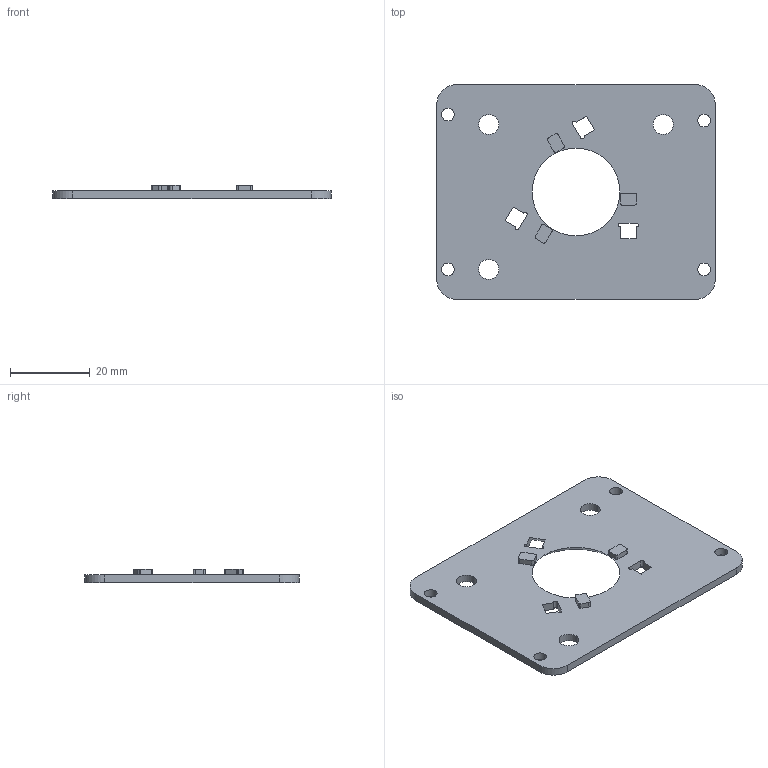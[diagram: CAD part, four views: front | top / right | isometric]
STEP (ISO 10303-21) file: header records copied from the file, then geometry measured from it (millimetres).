
FILE_DESCRIPTION (( 'STEP AP203' ), '1' );
FILE_NAME ('Sensor_support_lower.step', '2026-06-05T03:33:00', ( '' ), ( '' ), 'SwSTEP 2.0', 'SolidWorks 2024', '' );
FILE_SCHEMA (( 'CONFIG_CONTROL_DESIGN' ));
Length unit declared in the file: millimetre
Products named in the file (1): Sensor_support_lower
Bounding box: 69.8 x 53.8 x 3.35 mm (x, y, z)
Volume: 6303.4 mm3; surface area: 7294.2 mm2
Topology: 1 solids, 1 shells, 76 faces, 213 edges, 142 vertices
Faces by surface type: cylinder 41, plane 33, cone 2
Entity records: 2604 total; most frequent: DIRECTION 453, CARTESIAN_POINT 432, ORIENTED_EDGE 426, EDGE_CURVE 213, AXIS2_PLACEMENT_3D 163, VERTEX_POINT 142, LINE 127, VECTOR 127
